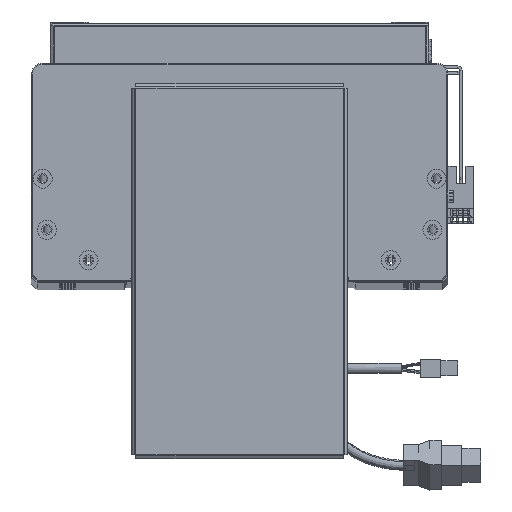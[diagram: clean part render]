
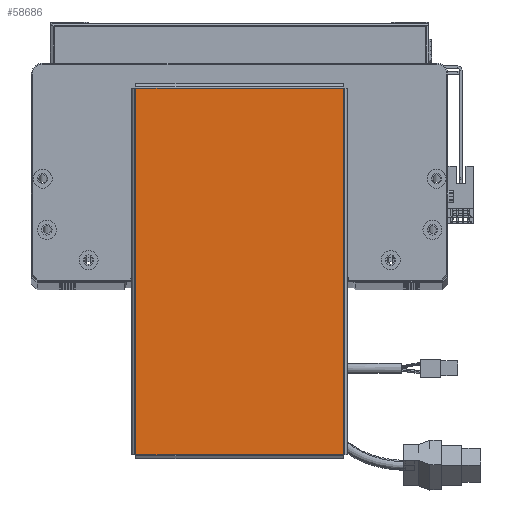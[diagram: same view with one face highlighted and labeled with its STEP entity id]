
A CAD part, top view. The second image highlights one B-rep face of the part: STEP entity #58686.
In plain terms, the highlighted planar face has unit normal (0, 0, 1).
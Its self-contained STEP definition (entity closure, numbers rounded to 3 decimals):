
#58 = CARTESIAN_POINT ( 'NONE',  ( 96.793, 54.763, 0. ) ) ;
#2697 = VECTOR ( 'NONE', #43746, 1000. ) ;
#4762 = CARTESIAN_POINT ( 'NONE',  ( 96.763, 54.763, 0. ) ) ;
#8201 = LINE ( 'NONE', #58643, #32393 ) ;
#8857 = EDGE_LOOP ( 'NONE', ( #52416, #41539, #27132, #62445 ) ) ;
#9606 = DIRECTION ( 'NONE',  ( 0., -1., 0. ) ) ;
#10347 = EDGE_CURVE ( 'NONE', #35079, #62605, #15064, .T. ) ;
#14057 = LINE ( 'NONE', #16569, #15764 ) ;
#15064 = LINE ( 'NONE', #29015, #71253 ) ;
#15764 = VECTOR ( 'NONE', #16827, 1000. ) ;
#16569 = CARTESIAN_POINT ( 'NONE',  ( -96.793, -54.763, 0. ) ) ;
#16827 = DIRECTION ( 'NONE',  ( 1., 0., 0. ) ) ;
#22117 = CARTESIAN_POINT ( 'NONE',  ( 0., 0., 0. ) ) ;
#22351 = DIRECTION ( 'NONE',  ( 1., 0., 0. ) ) ;
#27132 = ORIENTED_EDGE ( 'NONE', *, *, #51749, .T. ) ;
#29015 = CARTESIAN_POINT ( 'NONE',  ( 96.763, -54.793, 0. ) ) ;
#32393 = VECTOR ( 'NONE', #9606, 1000. ) ;
#35079 = VERTEX_POINT ( 'NONE', #58052 ) ;
#39878 = LINE ( 'NONE', #58, #2697 ) ;
#40640 = EDGE_CURVE ( 'NONE', #45136, #35079, #14057, .T. ) ;
#41539 = ORIENTED_EDGE ( 'NONE', *, *, #10347, .T. ) ;
#43746 = DIRECTION ( 'NONE',  ( -1., 0., 0. ) ) ;
#44070 = CARTESIAN_POINT ( 'NONE',  ( -96.763, 54.763, 0. ) ) ;
#45136 = VERTEX_POINT ( 'NONE', #50933 ) ;
#49036 = AXIS2_PLACEMENT_3D ( 'NONE', #22117, #66093, #22351 ) ;
#49655 = PLANE ( 'NONE',  #49036 ) ;
#50933 = CARTESIAN_POINT ( 'NONE',  ( -96.763, -54.763, 0. ) ) ;
#51749 = EDGE_CURVE ( 'NONE', #62605, #71159, #39878, .T. ) ;
#52416 = ORIENTED_EDGE ( 'NONE', *, *, #40640, .T. ) ;
#55591 = FACE_OUTER_BOUND ( 'NONE', #8857, .T. ) ;
#58052 = CARTESIAN_POINT ( 'NONE',  ( 96.763, -54.763, 0. ) ) ;
#58643 = CARTESIAN_POINT ( 'NONE',  ( -96.763, 54.793, 0. ) ) ;
#58686 = ADVANCED_FACE ( 'NONE', ( #55591 ), #49655, .T. ) ;
#62445 = ORIENTED_EDGE ( 'NONE', *, *, #65258, .T. ) ;
#62605 = VERTEX_POINT ( 'NONE', #4762 ) ;
#65258 = EDGE_CURVE ( 'NONE', #71159, #45136, #8201, .T. ) ;
#66093 = DIRECTION ( 'NONE',  ( 0., 0., 1. ) ) ;
#66981 = DIRECTION ( 'NONE',  ( 0., 1., 0. ) ) ;
#71159 = VERTEX_POINT ( 'NONE', #44070 ) ;
#71253 = VECTOR ( 'NONE', #66981, 1000. ) ;
